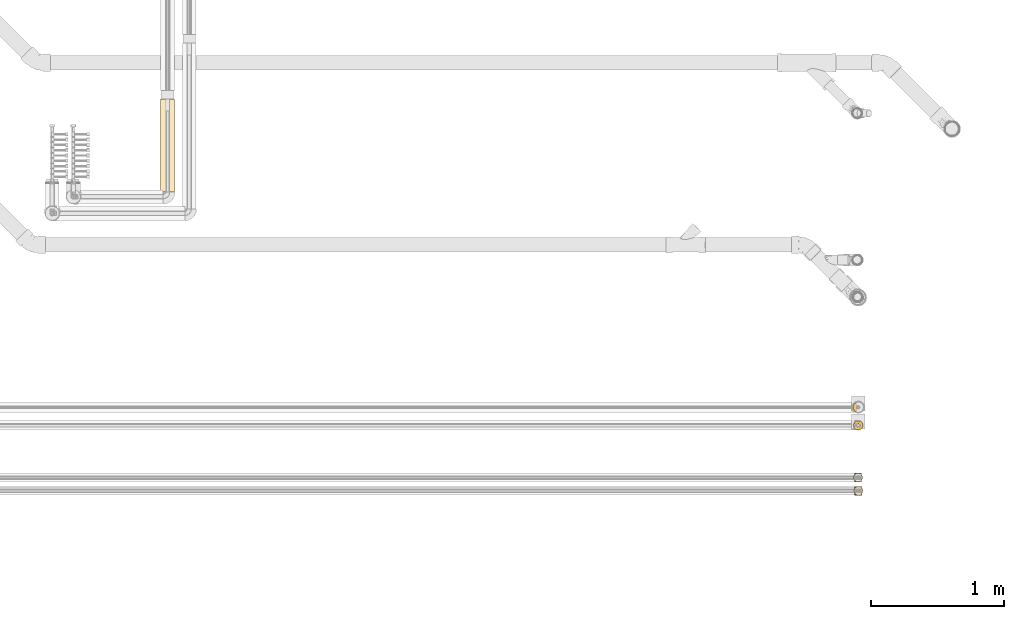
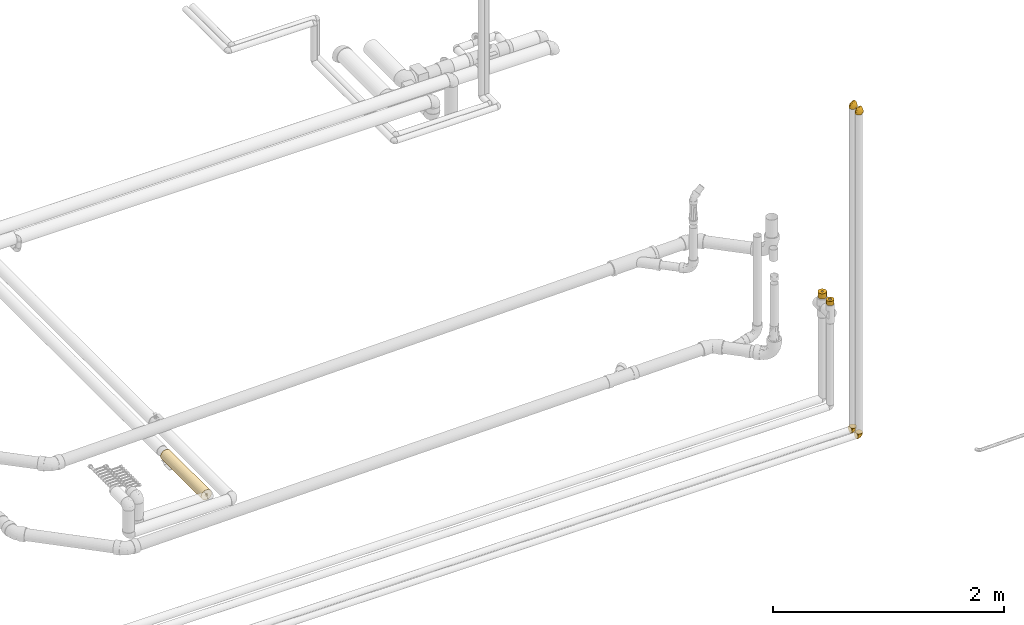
# One storey, part 4 of 83: 7 coverings.
"""IFC2X3 building model written with IfcOpenShell, lengths in millimetres."""

from ifc_helpers import new_model, entity, si_unit, converted_unit, derived_unit, direction, frame, origin_with_axes, origin_2d_with_axis, place, context, subcontext, project, spatial, hollow_circle, extrude, open_shell, surface_model, source, transform, mapped, element, save


model = new_model("IFC2X3")

# Units and contexts
model_context = context("Model", 3, precision=0.01, world=frame((0.0, 4.29681676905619e-09, 0.0)), true_north=direction((4.01073788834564e-13, 1.0)))
plan_context = context("Plan", 3, precision=0.01, world=frame((0.0, 4.29681676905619e-09, 0.0)), true_north=direction((4.01073788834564e-13, 1.0)))
body_context = subcontext(model_context, "Body", "Model", "MODEL_VIEW")
ifc_project = project(units=[converted_unit("PLANEANGLEUNIT", "DEGREE", entity("IfcPositiveLengthMeasure", 0.0174532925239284), si_unit("PLANEANGLEUNIT", "RADIAN"), dimensions=[0, 0, 0, 0, 0, 0, 0]), si_unit("AREAUNIT", "SQUARE_METRE"), si_unit("LENGTHUNIT", "METRE", prefix="MILLI"), si_unit("MASSUNIT", "GRAM", prefix="KILO"), si_unit("POWERUNIT", "WATT"), si_unit("PRESSUREUNIT", "PASCAL"), si_unit("FORCEUNIT", "NEWTON", prefix="KILO"), si_unit("ELECTRICVOLTAGEUNIT", "VOLT"), si_unit("ELECTRICCURRENTUNIT", "AMPERE"), si_unit("THERMODYNAMICTEMPERATUREUNIT", "DEGREE_CELSIUS"), si_unit("TIMEUNIT", "SECOND"), si_unit("VOLUMEUNIT", "CUBIC_METRE"), derived_unit("LINEARVELOCITYUNIT", [(si_unit("LENGTHUNIT", "METRE"), 1), (si_unit("TIMEUNIT", "SECOND"), -1)]), derived_unit("VOLUMETRICFLOWRATEUNIT", [(si_unit("VOLUMEUNIT", "CUBIC_METRE"), 1), (si_unit("TIMEUNIT", "SECOND"), -1)]), derived_unit("THERMALTRANSMITTANCEUNIT", [(si_unit("POWERUNIT", "WATT"), 1), (si_unit("THERMODYNAMICTEMPERATUREUNIT", "KELVIN"), -1), (si_unit("AREAUNIT", "SQUARE_METRE"), -1)]), derived_unit("SOUNDPRESSUREUNIT", [(si_unit("PRESSUREUNIT", "PASCAL"), 1)])], contexts=[model_context, plan_context])

# Site, building, storey
site_placement = place(None, frame((0.0, -4.29681676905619e-09, 0.0), z_axis=(0.0, 0.0, 1.0), x_axis=(1.0, 0.0, 0.0)))
site = spatial("IfcSite", under=ifc_project, at=site_placement, Name="ENGM", CompositionType="ELEMENT")
building_placement = place(site_placement, frame((0.0, 4.29681676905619e-09, 0.0), z_axis=(0.0, 0.0, 1.0), x_axis=(1.0, 0.0, 0.0)))
building = spatial("IfcBuilding", under=site, at=building_placement, Name="TI", CompositionType="ELEMENT")
storey_placement = place(building_placement, frame((0.0, 0.0, 204000.0), z_axis=(0.0, 0.0, 1.0), x_axis=(1.0, 0.0, 0.0)))
storey = spatial("IfcBuildingStorey", under=building, at=storey_placement, Name="Nivå D", CompositionType="ELEMENT", Elevation=204000.0)

# Coverings
shared_shape_1 = source(origin_with_axes(), body_context, "Body", "SweptSolid", [
    extrude(hollow_circle(Radius=52.5, WallThickness=40.0, at=origin_2d_with_axis()), frame((0.0, 0.0, 0.0), z_axis=(1.0, 0.0, 0.0), x_axis=(0.0, 1.0, 0.0)), (0.0, 0.0, 1.0), 701.7),
])
covering_1_placement = place(storey_placement, frame((603920.1909, 693395.06264, 6040.51071999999), z_axis=(0.0, 0.0, 1.0), x_axis=(0.0, 1.0, 0.0)))
element("IfcCovering", 1, at=covering_1_placement, inside=storey, Name="BI11T - Rørskål m/Al.folie - varme 60-25", PredefinedType="INSULATION", context=body_context, shape_type="MappedRepresentation", body=[
    mapped(shared_shape_1, transform((0.0, 0.0, 0.0), scale=1.0)),
])
shared_shape_2 = source(origin_with_axes(), body_context, "Body", "SurfaceModel", [
    surface_model("IfcShellBasedSurfaceModel", [(7.65854, 26.8, 33.53665), (14.93103, 26.8, 30.99072), (21.4533, 26.8, 26.89082), (-26.583, 26.8, -21.83356), (-7.52438, 26.8, 33.567), (30.99573, 26.8, 14.92062), (26.899, 26.8, 21.44304), (0.0, 26.8, 34.4), (-14.69425, 26.8, 31.10368), (-26.583, 26.8, 21.83356), (-21.15177, 26.8, 27.12863), (33.53852, 26.8, 7.65035), (34.4, 26.8, 0.0), (26.89082, 26.8, -21.4533), (33.53665, 26.8, -7.65854), (30.99072, 26.8, -14.93103), (21.44304, 26.8, -26.899), (14.92062, 26.8, -30.99573), (-14.70935, 26.8, -31.09655), (-21.16359, 26.8, -27.11941), (-7.53901, 26.8, -33.56372), (0.0, 26.8, -34.4), (7.65035, 26.8, -33.53852), (-26.8, 26.583, -21.83356), (-26.8, 21.15599, -27.12534), (-26.8, 14.7018, -31.10012), (-26.8, -8.90338, 33.22785), (-26.8, 26.583, 21.83356), (-26.8, 7.53379, -33.56489), (-26.8, 21.15599, 27.12534), (-26.8, 14.7018, 31.10012), (-26.8, 7.53379, 33.56489), (-26.8, 0.0, 34.4), (-26.8, -29.79127, 17.2), (-26.8, 0.0, -34.4), (-26.8, -8.90338, -33.22785), (-26.8, -17.2, -29.79127), (-26.8, -24.32447, -24.32447), (-26.8, -29.79127, -17.2), (-26.8, -34.4, 0.0), (-26.8, -33.22785, -8.90338), (-26.8, -17.2, 29.79127), (-26.8, -24.32447, 24.32447), (-26.8, -33.22785, 8.90338), (-26.64656, 26.64656, 21.83356), (-26.64656, 26.64656, -21.83356), (-3.59052, 13.4, -34.4), (-14.33755, 14.33755, -33.15375), (-20.98278, 20.24865, -29.29104), (-13.4, 3.59052, -34.4), (23.43181, -5.85668, -9.31772), (30.59211, 12.00691, -11.36629), (29.74143, 3.37977, 0.0), (-17.35379, -5.60847, -33.68915), (-10.72157, -3.05952, -33.65653), (-2.19496, -13.46149, -27.70964), (-5.90325, -23.09189, -20.94139), (-14.44362, -19.31464, -27.29136), (-11.50632, -10.12221, -31.78146), (-19.86027, -12.55716, -31.78146), (14.5039, 8.69712, -29.13049), (17.47419, 18.2255, -29.13049), (22.70218, 14.0418, -24.32911), (-8.49526, 8.49526, -34.4), (-1.73573, 4.43438, -33.72277), (-1.40625, 21.55179, -34.4), (21.13117, -4.93531, -15.5496), (-8.95552, -31.11498, -6.38768), (-11.56328, -29.76527, -13.16431), (31.96725, 14.56973, 0.0), (-17.29059, -26.4489, -20.94139), (13.00945, -12.79913, -17.94172), (17.64372, -3.70839, -21.17899), (4.67119, 7.67803, -32.90681), (10.14945, 17.27713, -32.47124), (28.1038, 16.16713, -18.30729), (5.75988, -4.42453, -29.1208), (-1.4374, -2.65193, -32.21392), (20.41295, 4.88172, -23.35949), (24.42026, 4.35073, -18.30729), (16.40522, -14.15163, -10.5905), (-1.3824, -25.73418, -13.68663), (1.8264, -26.29935, -7.71275), (8.10398, -20.63529, -12.38525), (11.69208, -20.10273, -5.98463), (16.47493, -16.47493, 0.0), (23.10818, -6.54758, 0.0), (-14.56973, -31.96725, 0.0), (4.03594, -17.21397, -21.39036), (9.62885, -9.0633, -24.32911), (-21.55179, 1.40625, -34.4), (13.92099, -0.05311, -26.46374), (9.4576, 2.58417, -30.01827), (-3.37977, -29.74143, 0.0), (6.54758, -23.10818, 0.0), (-16.40302, -11.7882, 31.78146), (-8.96499, -31.08424, 6.55564), (10.63139, -19.08757, 11.50781), (23.44486, -5.83859, 9.31385), (22.71205, 14.04293, 24.31983), (28.11122, 16.17091, 18.29685), (-8.34799, -17.2314, 27.29136), (-13.16926, -25.54575, 20.94139), (1.60724, -19.88713, 20.19204), (14.51664, 8.70018, 29.12392), (17.4853, 18.22796, 29.12392), (10.15899, 17.27639, 32.46794), (17.02293, -8.95279, 17.25897), (-13.98179, -4.14591, 33.74209), (-13.4, 3.59052, 34.4), (-20.1, 1.79526, 34.4), (-1.40625, 21.55179, 34.4), (-16.33213, -31.39885, 11.74535), (-18.40196, -20.19695, 27.29136), (2.37805, -25.95313, 7.88237), (-5.56785, -27.79838, 13.16431), (30.59671, 12.01158, 11.35688), (1.61546, -9.41417, 28.52205), (-9.49504, -8.67307, 31.98214), (24.43036, 4.35742, 18.29685), (-8.61019, -0.7535, 33.83371), (-2.54483, 2.9265, 33.63096), (-3.59052, 13.4, 34.4), (-8.49526, 8.49526, 34.4), (18.33244, 2.77456, 24.3201), (4.67405, 7.66653, 32.90424), (-20.5196, -5.89205, 33.78227), (9.64914, -9.05591, 24.31984), (7.49925, -1.10027, 29.66678), (2.2383, -14.80321, 24.70771), (-3.35568, -4.38407, 32.15869), (-14.33836, 14.33836, 33.15344), (-20.24021, 20.9835, 29.29463)], [open_shell([[[0, 1, 2]], [[2, 3, 4]], [[5, 2, 6]], [[5, 3, 2]], [[0, 2, 7]], [[2, 4, 7]], [[8, 9, 10]], [[9, 8, 4]], [[4, 3, 9]], [[5, 11, 12]], [[13, 12, 14]], [[13, 14, 15]], [[3, 13, 16]], [[13, 3, 12]], [[3, 16, 17]], [[3, 18, 19]], [[18, 3, 20]], [[21, 20, 3]], [[21, 3, 22]], [[3, 17, 22]], [[12, 3, 5]], [[23, 24, 25]], [[26, 27, 25]], [[23, 25, 27]], [[25, 28, 26]], [[29, 27, 30]], [[27, 31, 30]], [[31, 27, 32]], [[32, 27, 26]], [[33, 28, 34]], [[35, 36, 37]], [[38, 33, 34]], [[38, 35, 37]], [[39, 38, 40]], [[41, 33, 42]], [[33, 41, 26]], [[33, 39, 43]], [[26, 28, 33]], [[38, 39, 33]], [[34, 35, 38]], [[23, 27, 44]], [[45, 23, 44]], [[9, 3, 44]], [[45, 44, 3]], [[46, 47, 20]], [[25, 48, 47]], [[34, 28, 49]], [[49, 28, 47]], [[25, 24, 48]], [[24, 23, 45]], [[45, 3, 19]], [[47, 48, 18]], [[47, 46, 49]], [[18, 20, 47]], [[20, 21, 46]], [[18, 48, 19]], [[28, 25, 47]], [[45, 19, 48]], [[45, 48, 24]], [[50, 51, 52]], [[53, 49, 54]], [[55, 56, 57]], [[58, 59, 53]], [[60, 61, 62]], [[63, 64, 54]], [[65, 21, 22]], [[51, 50, 66]], [[67, 40, 68]], [[51, 14, 69]], [[70, 38, 37]], [[36, 59, 57]], [[36, 57, 37]], [[38, 70, 68]], [[59, 36, 35]], [[71, 72, 66]], [[73, 46, 74]], [[65, 22, 74]], [[13, 15, 75]], [[62, 16, 13]], [[74, 46, 65]], [[74, 22, 17]], [[61, 74, 17]], [[76, 55, 77]], [[74, 60, 73]], [[78, 79, 72]], [[78, 62, 79]], [[71, 66, 80]], [[67, 81, 82]], [[51, 15, 14]], [[52, 51, 69]], [[79, 75, 51]], [[38, 68, 40]], [[75, 62, 13]], [[83, 84, 82]], [[16, 61, 17]], [[81, 83, 82]], [[85, 50, 86]], [[40, 67, 87]], [[71, 88, 89]], [[54, 64, 77]], [[55, 57, 58]], [[70, 57, 56]], [[35, 34, 90]], [[60, 91, 92]], [[73, 77, 64]], [[14, 12, 69]], [[51, 75, 15]], [[62, 75, 79]], [[62, 61, 16]], [[74, 61, 60]], [[77, 55, 58]], [[55, 89, 88]], [[54, 58, 53]], [[91, 76, 92]], [[87, 67, 93]], [[87, 39, 40]], [[84, 85, 94]], [[94, 93, 82]], [[67, 82, 93]], [[80, 84, 83]], [[94, 82, 84]], [[81, 67, 68]], [[68, 56, 81]], [[88, 81, 56]], [[71, 80, 83]], [[80, 50, 85]], [[83, 81, 88]], [[72, 71, 89]], [[83, 88, 71]], [[55, 88, 56]], [[91, 72, 89]], [[66, 72, 79]], [[76, 91, 89]], [[78, 60, 62]], [[55, 76, 89]], [[92, 77, 73]], [[51, 66, 79]], [[66, 50, 80]], [[72, 91, 78]], [[60, 78, 91]], [[77, 92, 76]], [[73, 64, 46]], [[73, 60, 92]], [[57, 70, 37]], [[68, 70, 56]], [[53, 35, 90]], [[57, 59, 58]], [[35, 53, 59]], [[49, 53, 90]], [[63, 54, 49]], [[77, 58, 54]], [[50, 52, 86]], [[85, 84, 80]], [[46, 64, 63]], [[41, 95, 26]], [[93, 96, 87]], [[97, 85, 98]], [[96, 43, 87]], [[99, 100, 6]], [[101, 102, 103]], [[104, 105, 106]], [[107, 103, 97]], [[108, 109, 110]], [[0, 111, 106]], [[112, 102, 33]], [[0, 7, 111]], [[42, 113, 41]], [[41, 113, 95]], [[1, 0, 106]], [[114, 97, 115]], [[98, 52, 116]], [[101, 117, 118]], [[119, 100, 99]], [[2, 99, 6]], [[43, 96, 112]], [[116, 5, 100]], [[116, 69, 11]], [[2, 1, 105]], [[108, 120, 109]], [[121, 122, 123]], [[124, 119, 99]], [[104, 106, 125]], [[106, 122, 125]], [[5, 116, 11]], [[33, 102, 42]], [[105, 99, 2]], [[98, 116, 119]], [[124, 99, 104]], [[98, 107, 97]], [[5, 6, 100]], [[98, 85, 86]], [[122, 106, 111]], [[95, 108, 126]], [[127, 128, 117]], [[128, 104, 125]], [[103, 102, 115]], [[113, 102, 101]], [[123, 120, 121]], [[128, 127, 124]], [[97, 103, 115]], [[129, 127, 117]], [[114, 115, 96]], [[98, 119, 107]], [[69, 116, 52]], [[69, 12, 11]], [[26, 126, 32]], [[116, 100, 119]], [[106, 105, 1]], [[99, 105, 104]], [[121, 128, 125]], [[120, 123, 109]], [[117, 128, 130]], [[43, 39, 87]], [[94, 114, 93]], [[96, 115, 112]], [[97, 94, 85]], [[93, 114, 96]], [[94, 97, 114]], [[102, 112, 115]], [[33, 43, 112]], [[126, 108, 110]], [[118, 108, 95]], [[124, 107, 119]], [[103, 107, 127]], [[32, 126, 110]], [[95, 126, 26]], [[128, 124, 104]], [[107, 124, 127]], [[118, 117, 130]], [[129, 101, 103]], [[102, 113, 42]], [[95, 113, 101]], [[101, 118, 95]], [[120, 118, 130]], [[118, 120, 108]], [[120, 130, 121]], [[128, 121, 130]], [[122, 121, 125]], [[101, 129, 117]], [[103, 127, 129]], [[86, 52, 98]], [[31, 32, 109]], [[31, 131, 30]], [[30, 131, 132]], [[27, 29, 44]], [[122, 131, 109]], [[122, 7, 4]], [[31, 109, 131]], [[132, 44, 29]], [[132, 131, 8]], [[10, 9, 44]], [[44, 132, 10]], [[30, 132, 29]], [[4, 8, 131]], [[122, 4, 131]], [[8, 10, 132]]])]),
])
for number, where, z_axis, x_axis in (
    (2, (609131.9743, 691141.97914, 9640.0), (0.0, 1.0, 0.0), (0.0, 0.0, 1.0)),
    (3, (609129.7743, 691241.97914, 9640.0), (0.0, 1.0, 0.0), (0.0, 0.0, 1.0)),
):
    element("IfcCovering", number, at=place(storey_placement, frame(where, z_axis=z_axis, x_axis=x_axis)), inside=storey, Name="BI10T - Cellegummi 18-32 mm kalde rør", PredefinedType="INSULATION", context=body_context, shape_type="MappedRepresentation", body=[
        mapped(shared_shape_2, transform((0.0, 0.0, 0.0), scale=1.0)),
    ])
shared_shape_3 = source(origin_with_axes(), body_context, "Body", "SurfaceModel", [
    surface_model("IfcShellBasedSurfaceModel", [(26.89082, 26.8, -21.4533), (34.4, 26.8, 0.0), (33.53665, 26.8, -7.65854), (30.99072, 26.8, -14.93103), (-26.583, 26.8, -21.83356), (21.44304, 26.8, -26.899), (14.92062, 26.8, -30.99573), (-14.70935, 26.8, -31.09655), (-21.16359, 26.8, -27.11941), (-7.53901, 26.8, -33.56372), (0.0, 26.8, -34.4), (7.65035, 26.8, -33.53852), (-26.8, 26.583, -21.83356), (-26.8, 21.15599, -27.12534), (-26.8, 14.7018, -31.10012), (-26.8, -8.90338, 33.22785), (-26.8, 26.583, 21.83356), (-26.8, 7.53379, -33.56489), (-26.8, 21.15599, 27.12534), (-26.8, 14.7018, 31.10012), (-26.8, 7.53379, 33.56489), (-26.8, 0.0, 34.4), (-26.8, -29.79127, 17.2), (-26.8, 0.0, -34.4), (-26.8, -8.90338, -33.22785), (-26.8, -17.2, -29.79127), (-26.8, -24.32447, -24.32447), (-26.8, -29.79127, -17.2), (-26.8, -34.4, 0.0), (-26.8, -33.22785, -8.90338), (-26.8, -17.2, 29.79127), (-26.8, -24.32447, 24.32447), (-26.8, -33.22785, 8.90338), (-26.64656, 26.64656, 21.83356), (-26.64656, 26.64656, -21.83356), (-26.583, 26.8, 21.83356), (-3.59052, 13.4, -34.4), (-14.33755, 14.33755, -33.15375), (-20.98278, 20.24865, -29.29104), (-13.4, 3.59052, -34.4), (23.43181, -5.85668, -9.31772), (30.59211, 12.00691, -11.36629), (29.74143, 3.37977, 0.0), (-17.35379, -5.60847, -33.68915), (-10.72157, -3.05952, -33.65653), (-2.19496, -13.46149, -27.70964), (-5.90325, -23.09189, -20.94139), (-14.44362, -19.31464, -27.29136), (-11.50632, -10.12221, -31.78146), (-19.86027, -12.55716, -31.78146), (14.5039, 8.69712, -29.13049), (17.47419, 18.2255, -29.13049), (22.70218, 14.0418, -24.32911), (-8.49526, 8.49526, -34.4), (-1.73573, 4.43438, -33.72277), (-1.40625, 21.55179, -34.4), (21.13117, -4.93531, -15.5496), (-8.95552, -31.11498, -6.38768), (-11.56328, -29.76527, -13.16431), (31.96725, 14.56973, 0.0), (-17.29059, -26.4489, -20.94139), (13.00945, -12.79913, -17.94172), (17.64372, -3.70839, -21.17899), (4.67119, 7.67803, -32.90681), (10.14945, 17.27713, -32.47124), (28.1038, 16.16713, -18.30729), (5.75988, -4.42453, -29.1208), (-1.4374, -2.65193, -32.21392), (20.41295, 4.88172, -23.35949), (24.42026, 4.35073, -18.30729), (16.40522, -14.15163, -10.5905), (-1.3824, -25.73418, -13.68663), (1.8264, -26.29935, -7.71275), (8.10398, -20.63529, -12.38525), (11.69208, -20.10273, -5.98463), (16.47493, -16.47493, 0.0), (23.10818, -6.54758, 0.0), (-14.56973, -31.96725, 0.0), (4.03594, -17.21397, -21.39036), (9.62885, -9.0633, -24.32911), (-21.55179, 1.40625, -34.4), (13.92099, -0.05311, -26.46374), (9.4576, 2.58417, -30.01827), (-3.37977, -29.74143, 0.0), (6.54758, -23.10818, 0.0), (-16.40302, -11.7882, 31.78146), (-8.96499, -31.08424, 6.55564), (10.63139, -19.08757, 11.50781), (23.44486, -5.83859, 9.31385), (22.71205, 14.04293, 24.31983), (28.11122, 16.17091, 18.29685), (26.899, 26.8, 21.44304), (-8.34799, -17.2314, 27.29136), (-13.16926, -25.54575, 20.94139), (1.60724, -19.88713, 20.19204), (14.51664, 8.70018, 29.12392), (17.4853, 18.22796, 29.12392), (10.15899, 17.27639, 32.46794), (17.02293, -8.95279, 17.25897), (-13.98179, -4.14591, 33.74209), (-13.4, 3.59052, 34.4), (-20.1, 1.79526, 34.4), (7.65854, 26.8, 33.53665), (-1.40625, 21.55179, 34.4), (-16.33213, -31.39885, 11.74535), (0.0, 26.8, 34.4), (-18.40196, -20.19695, 27.29136), (14.93103, 26.8, 30.99072), (2.37805, -25.95313, 7.88237), (-5.56785, -27.79838, 13.16431), (30.59671, 12.01158, 11.35688), (1.61546, -9.41417, 28.52205), (-9.49504, -8.67307, 31.98214), (24.43036, 4.35742, 18.29685), (21.4533, 26.8, 26.89082), (30.99573, 26.8, 14.92062), (33.53852, 26.8, 7.65035), (-8.61019, -0.7535, 33.83371), (-2.54483, 2.9265, 33.63096), (-3.59052, 13.4, 34.4), (-8.49526, 8.49526, 34.4), (18.33244, 2.77456, 24.3201), (4.67405, 7.66653, 32.90424), (-20.5196, -5.89205, 33.78227), (9.64914, -9.05591, 24.31984), (7.49925, -1.10027, 29.66678), (2.2383, -14.80321, 24.70771), (-3.35568, -4.38407, 32.15869), (-14.33836, 14.33836, 33.15344), (-20.24021, 20.9835, 29.29463), (-7.52438, 26.8, 33.567), (-14.69425, 26.8, 31.10368), (-21.15177, 26.8, 27.12863)], [open_shell([[[0, 1, 2]], [[0, 2, 3]], [[4, 0, 5]], [[0, 4, 1]], [[4, 5, 6]], [[4, 7, 8]], [[7, 4, 9]], [[10, 9, 4]], [[10, 4, 11]], [[4, 6, 11]], [[12, 13, 14]], [[15, 16, 14]], [[12, 14, 16]], [[14, 17, 15]], [[18, 16, 19]], [[16, 20, 19]], [[20, 16, 21]], [[21, 16, 15]], [[22, 17, 23]], [[24, 25, 26]], [[27, 22, 23]], [[27, 24, 26]], [[28, 27, 29]], [[30, 22, 31]], [[22, 30, 15]], [[22, 28, 32]], [[15, 17, 22]], [[27, 28, 22]], [[23, 24, 27]], [[12, 16, 33]], [[34, 12, 33]], [[35, 4, 33]], [[34, 33, 4]], [[36, 37, 9]], [[14, 38, 37]], [[23, 17, 39]], [[39, 17, 37]], [[14, 13, 38]], [[13, 12, 34]], [[34, 4, 8]], [[37, 38, 7]], [[37, 36, 39]], [[7, 9, 37]], [[9, 10, 36]], [[7, 38, 8]], [[17, 14, 37]], [[34, 8, 38]], [[34, 38, 13]], [[40, 41, 42]], [[43, 39, 44]], [[45, 46, 47]], [[48, 49, 43]], [[50, 51, 52]], [[53, 54, 44]], [[55, 10, 11]], [[41, 40, 56]], [[57, 29, 58]], [[41, 2, 59]], [[60, 27, 26]], [[25, 49, 47]], [[25, 47, 26]], [[27, 60, 58]], [[49, 25, 24]], [[61, 62, 56]], [[63, 36, 64]], [[55, 11, 64]], [[0, 3, 65]], [[52, 5, 0]], [[64, 36, 55]], [[64, 11, 6]], [[51, 64, 6]], [[66, 45, 67]], [[64, 50, 63]], [[68, 69, 62]], [[68, 52, 69]], [[61, 56, 70]], [[57, 71, 72]], [[41, 3, 2]], [[42, 41, 59]], [[69, 65, 41]], [[27, 58, 29]], [[65, 52, 0]], [[73, 74, 72]], [[5, 51, 6]], [[71, 73, 72]], [[75, 40, 76]], [[29, 57, 77]], [[61, 78, 79]], [[44, 54, 67]], [[45, 47, 48]], [[60, 47, 46]], [[24, 23, 80]], [[50, 81, 82]], [[63, 67, 54]], [[2, 1, 59]], [[41, 65, 3]], [[52, 65, 69]], [[52, 51, 5]], [[64, 51, 50]], [[67, 45, 48]], [[45, 79, 78]], [[44, 48, 43]], [[81, 66, 82]], [[77, 57, 83]], [[77, 28, 29]], [[74, 75, 84]], [[84, 83, 72]], [[57, 72, 83]], [[70, 74, 73]], [[84, 72, 74]], [[71, 57, 58]], [[58, 46, 71]], [[78, 71, 46]], [[61, 70, 73]], [[70, 40, 75]], [[73, 71, 78]], [[62, 61, 79]], [[73, 78, 61]], [[45, 78, 46]], [[81, 62, 79]], [[56, 62, 69]], [[66, 81, 79]], [[68, 50, 52]], [[45, 66, 79]], [[82, 67, 63]], [[41, 56, 69]], [[56, 40, 70]], [[62, 81, 68]], [[50, 68, 81]], [[67, 82, 66]], [[63, 54, 36]], [[63, 50, 82]], [[47, 60, 26]], [[58, 60, 46]], [[43, 24, 80]], [[47, 49, 48]], [[24, 43, 49]], [[39, 43, 80]], [[53, 44, 39]], [[67, 48, 44]], [[40, 42, 76]], [[75, 74, 70]], [[36, 54, 53]], [[30, 85, 15]], [[83, 86, 77]], [[87, 75, 88]], [[86, 32, 77]], [[89, 90, 91]], [[92, 93, 94]], [[95, 96, 97]], [[98, 94, 87]], [[99, 100, 101]], [[102, 103, 97]], [[104, 93, 22]], [[102, 105, 103]], [[31, 106, 30]], [[30, 106, 85]], [[107, 102, 97]], [[108, 87, 109]], [[88, 42, 110]], [[92, 111, 112]], [[113, 90, 89]], [[114, 89, 91]], [[32, 86, 104]], [[110, 115, 90]], [[110, 59, 116]], [[114, 107, 96]], [[99, 117, 100]], [[118, 119, 120]], [[121, 113, 89]], [[95, 97, 122]], [[97, 119, 122]], [[115, 110, 116]], [[22, 93, 31]], [[96, 89, 114]], [[88, 110, 113]], [[121, 89, 95]], [[88, 98, 87]], [[115, 91, 90]], [[88, 75, 76]], [[119, 97, 103]], [[85, 99, 123]], [[124, 125, 111]], [[125, 95, 122]], [[94, 93, 109]], [[106, 93, 92]], [[120, 117, 118]], [[125, 124, 121]], [[87, 94, 109]], [[126, 124, 111]], [[108, 109, 86]], [[88, 113, 98]], [[59, 110, 42]], [[59, 1, 116]], [[15, 123, 21]], [[110, 90, 113]], [[97, 96, 107]], [[89, 96, 95]], [[118, 125, 122]], [[117, 120, 100]], [[111, 125, 127]], [[32, 28, 77]], [[84, 108, 83]], [[86, 109, 104]], [[87, 84, 75]], [[83, 108, 86]], [[84, 87, 108]], [[93, 104, 109]], [[22, 32, 104]], [[123, 99, 101]], [[112, 99, 85]], [[121, 98, 113]], [[94, 98, 124]], [[21, 123, 101]], [[85, 123, 15]], [[125, 121, 95]], [[98, 121, 124]], [[112, 111, 127]], [[126, 92, 94]], [[93, 106, 31]], [[85, 106, 92]], [[92, 112, 85]], [[117, 112, 127]], [[112, 117, 99]], [[117, 127, 118]], [[125, 118, 127]], [[119, 118, 122]], [[92, 126, 111]], [[94, 124, 126]], [[76, 42, 88]], [[20, 21, 100]], [[20, 128, 19]], [[19, 128, 129]], [[16, 18, 33]], [[119, 128, 100]], [[119, 105, 130]], [[20, 100, 128]], [[129, 33, 18]], [[129, 128, 131]], [[132, 35, 33]], [[33, 129, 132]], [[19, 129, 18]], [[130, 131, 128]], [[119, 130, 128]], [[131, 132, 129]], [[107, 114, 91]], [[4, 91, 115]], [[107, 91, 102]], [[91, 4, 130]], [[105, 102, 130]], [[102, 91, 130]], [[4, 115, 116]], [[1, 4, 116]], [[130, 132, 131]], [[35, 132, 4]], [[132, 130, 4]]])]),
])
for number, where, z_axis, x_axis in (
    (4, (609131.9743, 691141.97914, 6220.0), (0.0, -1.0, 0.0), (1.0, 0.0, 0.0)),
    (5, (609129.7743, 691241.97914, 6220.00010999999), (0.0, -1.0, 0.0), (1.0, 0.0, 0.0)),
):
    element("IfcCovering", number, at=place(storey_placement, frame(where, z_axis=z_axis, x_axis=x_axis)), inside=storey, Name="BI10T - Cellegummi 18-32 mm kalde rør", PredefinedType="INSULATION", context=body_context, shape_type="MappedRepresentation", body=[
        mapped(shared_shape_3, transform((0.0, 0.0, 0.0), scale=1.0)),
    ])
shared_shape_4 = source(origin_with_axes(), body_context, "Body", "SweptSolid", [
    extrude(hollow_circle(Radius=35.0, WallThickness=21.0, at=origin_2d_with_axis()), frame((0.0, 0.0, 0.0), z_axis=(1.0, 0.0, 0.0), x_axis=(0.0, 1.0, 0.0)), (0.0, 0.0, 1.0), 45.1),
])
covering_2_placement = place(storey_placement, frame((609131.50429, 691635.97914, 7302.94321), z_axis=(0.0, 1.0, 0.0), x_axis=(0.0, 0.0, 1.0)))
element("IfcCovering", 6, at=covering_2_placement, inside=storey, Name="BI15T - Cellegummi KV 15mm", PredefinedType="INSULATION", context=body_context, shape_type="MappedRepresentation", body=[
    mapped(shared_shape_4, transform((0.0, 0.0, 0.0), scale=1.0)),
])
shared_shape_5 = source(origin_with_axes(), body_context, "Body", "SweptSolid", [
    extrude(hollow_circle(Radius=39.0, WallThickness=30.0, at=origin_2d_with_axis()), frame((0.0, 0.0, 0.0), z_axis=(1.0, 0.0, 0.0), x_axis=(0.0, 1.0, 0.0)), (0.0, 0.0, 1.0), 54.7),
])
covering_3_placement = place(storey_placement, frame((609131.9743, 691772.72914, 7293.33984), z_axis=(0.0, 1.0, 0.0), x_axis=(0.0, 0.0, 1.0)))
element("IfcCovering", 7, at=covering_3_placement, inside=storey, Name="BI16T - Rørskål m/Al.folie - VV 40mm", PredefinedType="INSULATION", context=body_context, shape_type="MappedRepresentation", body=[
    mapped(shared_shape_5, transform((0.0, 0.0, 0.0), scale=1.0)),
])

save(model, "model.ifc")
